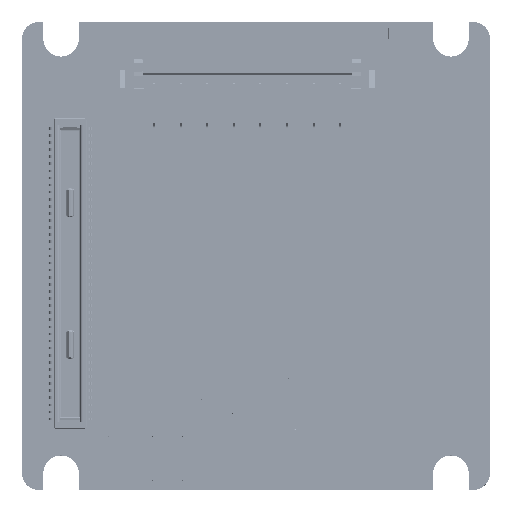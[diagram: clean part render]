
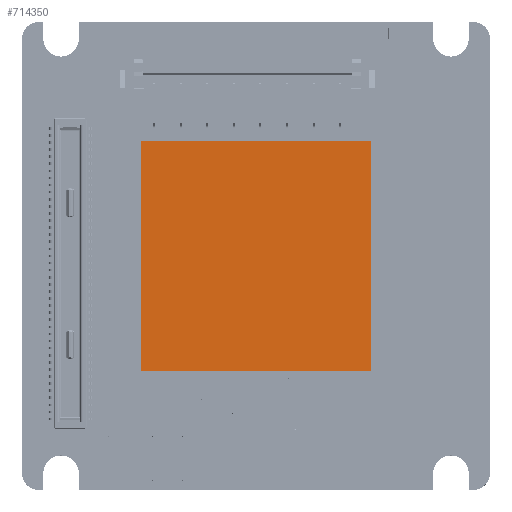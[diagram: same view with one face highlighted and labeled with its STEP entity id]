
A CAD part, top view. The second image highlights one B-rep face of the part: STEP entity #714350.
In plain terms, the highlighted planar face has unit normal (0, 0, 1).
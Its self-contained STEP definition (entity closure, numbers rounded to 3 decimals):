
#120 = EDGE_LOOP ( 'NONE', ( #510658, #119754, #645369, #264386 ) ) ;
#19339 = CARTESIAN_POINT ( 'NONE',  ( -6.5, -6.5, 6.162 ) ) ;
#20413 = LINE ( 'NONE', #263387, #293194 ) ;
#30686 = CARTESIAN_POINT ( 'NONE',  ( 0., 0., 6.162 ) ) ;
#50021 = EDGE_CURVE ( 'NONE', #495274, #260245, #318148, .T. ) ;
#119754 = ORIENTED_EDGE ( 'NONE', *, *, #644499, .F. ) ;
#131796 = CARTESIAN_POINT ( 'NONE',  ( -6.5, -6.5, 6.162 ) ) ;
#170164 = DIRECTION ( 'NONE',  ( 0., -1., 0. ) ) ;
#179274 = DIRECTION ( 'NONE',  ( 1., 0., 0. ) ) ;
#188992 = CARTESIAN_POINT ( 'NONE',  ( 6.5, -6.5, 6.162 ) ) ;
#218884 = VECTOR ( 'NONE', #179274, 1000. ) ;
#223343 = CARTESIAN_POINT ( 'NONE',  ( -6.5, 6.5, 6.162 ) ) ;
#260245 = VERTEX_POINT ( 'NONE', #263519 ) ;
#263387 = CARTESIAN_POINT ( 'NONE',  ( 6.5, 6.5, 6.162 ) ) ;
#263519 = CARTESIAN_POINT ( 'NONE',  ( -6.5, 6.5, 6.162 ) ) ;
#264386 = ORIENTED_EDGE ( 'NONE', *, *, #50021, .F. ) ;
#276334 = EDGE_CURVE ( 'NONE', #332914, #495274, #734642, .T. ) ;
#277666 = DIRECTION ( 'NONE',  ( 0., 0., -1. ) ) ;
#288446 = CARTESIAN_POINT ( 'NONE',  ( 6.5, -6.5, 6.162 ) ) ;
#293194 = VECTOR ( 'NONE', #170164, 1000. ) ;
#318148 = LINE ( 'NONE', #19339, #444953 ) ;
#332914 = VERTEX_POINT ( 'NONE', #288446 ) ;
#366681 = VECTOR ( 'NONE', #678878, 1000. ) ;
#375192 = VERTEX_POINT ( 'NONE', #513972 ) ;
#381823 = DIRECTION ( 'NONE',  ( 0., 1., 0. ) ) ;
#404940 = DIRECTION ( 'NONE',  ( 0., -1., 0. ) ) ;
#444953 = VECTOR ( 'NONE', #381823, 1000. ) ;
#495274 = VERTEX_POINT ( 'NONE', #131796 ) ;
#510658 = ORIENTED_EDGE ( 'NONE', *, *, #276334, .F. ) ;
#513972 = CARTESIAN_POINT ( 'NONE',  ( 6.5, 6.5, 6.162 ) ) ;
#572576 = EDGE_CURVE ( 'NONE', #260245, #375192, #769054, .T. ) ;
#576419 = FACE_OUTER_BOUND ( 'NONE', #120, .T. ) ;
#644499 = EDGE_CURVE ( 'NONE', #375192, #332914, #20413, .T. ) ;
#645369 = ORIENTED_EDGE ( 'NONE', *, *, #572576, .F. ) ;
#678878 = DIRECTION ( 'NONE',  ( -1., 0., 0. ) ) ;
#707613 = PLANE ( 'NONE',  #786888 ) ;
#714350 = ADVANCED_FACE ( 'NONE', ( #576419 ), #707613, .F. ) ;
#734642 = LINE ( 'NONE', #188992, #366681 ) ;
#769054 = LINE ( 'NONE', #223343, #218884 ) ;
#786888 = AXIS2_PLACEMENT_3D ( 'NONE', #30686, #277666, #404940 ) ;
